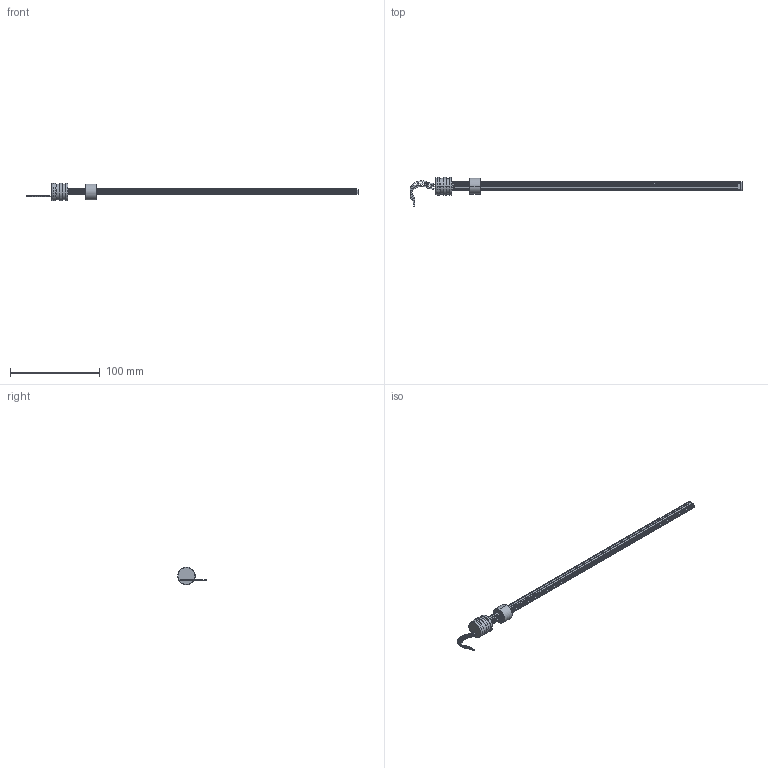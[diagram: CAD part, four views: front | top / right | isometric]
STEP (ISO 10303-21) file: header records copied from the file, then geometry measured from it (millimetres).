
FILE_DESCRIPTION (( 'STEP AP203' ), '1' );
FILE_NAME ('PS6506-regal.step', '2009-04-08T07:05:34', ( 'Gustaf Hederström' ), ( 'Cevican AB' ), 'SwSTEP 2.0', 'SolidWorks 2002308', '' );
FILE_SCHEMA (( 'CONFIG_CONTROL_DESIGN' ));
Length unit declared in the file: millimetre
Products named in the file (3): PS6506-regal; PS6506; WIPER6500-5
Assembly tree (2 placements, depth 2):
  PS6506-regal
    WIPER6500-5
    PS6506
Bounding box: 369.62 x 32.31 x 19.7 mm (x, y, z)
Volume: 22587.5 mm3; surface area: 15351.8 mm2
Topology: 2 solids, 3 shells, 207 faces, 560 edges, 359 vertices
Faces by surface type: plane 92, cylinder 76, bspline 35, cone 4
Entity records: 8102 total; most frequent: CARTESIAN_POINT 2586, ORIENTED_EDGE 1120, DIRECTION 1082, EDGE_CURVE 560, AXIS2_PLACEMENT_3D 387, VERTEX_POINT 359, LINE 308, VECTOR 308
